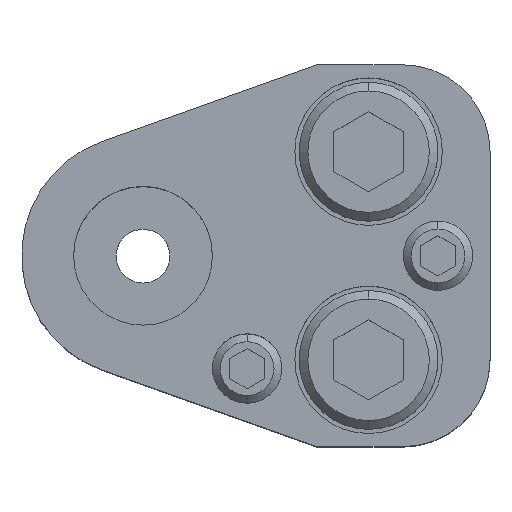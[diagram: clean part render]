
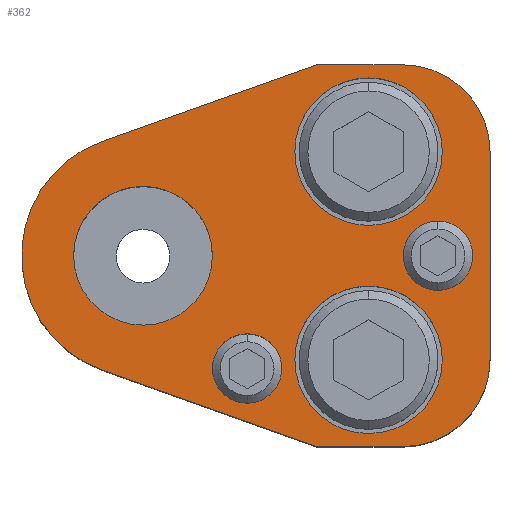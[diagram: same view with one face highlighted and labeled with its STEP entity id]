
A CAD part, top view. The second image highlights one B-rep face of the part: STEP entity #362.
In plain terms, the highlighted planar face has unit normal (0, 0, 1).
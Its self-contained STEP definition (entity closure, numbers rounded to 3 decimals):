
#134=PLANE('',#2717);
#203=FACE_BOUND('',#693,.T.);
#204=FACE_BOUND('',#694,.T.);
#205=FACE_BOUND('',#695,.T.);
#206=FACE_BOUND('',#696,.T.);
#207=FACE_BOUND('',#697,.T.);
#208=FACE_BOUND('',#698,.T.);
#362=ADVANCED_FACE('',(#203,#204,#205,#206,#207,#208),#134,.T.);
#693=EDGE_LOOP('',(#1255,#1256,#1257,#1258,#1259,#1260,#1261,#1262));
#694=EDGE_LOOP('',(#1263,#1264));
#695=EDGE_LOOP('',(#1265,#1266));
#696=EDGE_LOOP('',(#1267,#1268));
#697=EDGE_LOOP('',(#1269,#1270));
#698=EDGE_LOOP('',(#1271,#1272));
#845=CIRCLE('',#2656,14.);
#847=CIRCLE('',#2661,10.);
#849=CIRCLE('',#2665,10.);
#867=CIRCLE('',#2693,8.5);
#869=CIRCLE('',#2696,8.5);
#871=CIRCLE('',#2700,8.5);
#873=CIRCLE('',#2703,8.5);
#877=CIRCLE('',#2711,4.);
#878=CIRCLE('',#2712,4.);
#879=CIRCLE('',#2713,4.);
#880=CIRCLE('',#2714,4.);
#881=CIRCLE('',#2715,8.);
#882=CIRCLE('',#2716,8.);
#1255=ORIENTED_EDGE('',*,*,#1942,.T.);
#1256=ORIENTED_EDGE('',*,*,#1946,.T.);
#1257=ORIENTED_EDGE('',*,*,#1949,.T.);
#1258=ORIENTED_EDGE('',*,*,#1952,.T.);
#1259=ORIENTED_EDGE('',*,*,#1955,.T.);
#1260=ORIENTED_EDGE('',*,*,#1958,.T.);
#1261=ORIENTED_EDGE('',*,*,#1961,.T.);
#1262=ORIENTED_EDGE('',*,*,#1964,.T.);
#1263=ORIENTED_EDGE('',*,*,#2003,.F.);
#1264=ORIENTED_EDGE('',*,*,#2004,.F.);
#1265=ORIENTED_EDGE('',*,*,#2005,.F.);
#1266=ORIENTED_EDGE('',*,*,#2006,.F.);
#1267=ORIENTED_EDGE('',*,*,#1997,.F.);
#1268=ORIENTED_EDGE('',*,*,#1993,.F.);
#1269=ORIENTED_EDGE('',*,*,#1991,.F.);
#1270=ORIENTED_EDGE('',*,*,#1987,.F.);
#1271=ORIENTED_EDGE('',*,*,#2007,.T.);
#1272=ORIENTED_EDGE('',*,*,#2008,.T.);
#1686=VERTEX_POINT('',#3916);
#1687=VERTEX_POINT('',#3918);
#1690=VERTEX_POINT('',#3925);
#1692=VERTEX_POINT('',#3931);
#1694=VERTEX_POINT('',#3937);
#1696=VERTEX_POINT('',#3943);
#1698=VERTEX_POINT('',#3949);
#1700=VERTEX_POINT('',#3955);
#1717=VERTEX_POINT('',#4008);
#1718=VERTEX_POINT('',#4009);
#1721=VERTEX_POINT('',#4021);
#1722=VERTEX_POINT('',#4022);
#1727=VERTEX_POINT('',#4042);
#1728=VERTEX_POINT('',#4043);
#1729=VERTEX_POINT('',#4046);
#1730=VERTEX_POINT('',#4047);
#1731=VERTEX_POINT('',#4050);
#1732=VERTEX_POINT('',#4051);
#1942=EDGE_CURVE('',#1687,#1686,#845,.T.);
#1946=EDGE_CURVE('',#1686,#1690,#2226,.T.);
#1949=EDGE_CURVE('',#1690,#1692,#2229,.T.);
#1952=EDGE_CURVE('',#1692,#1694,#847,.T.);
#1955=EDGE_CURVE('',#1694,#1696,#2233,.T.);
#1958=EDGE_CURVE('',#1696,#1698,#849,.T.);
#1961=EDGE_CURVE('',#1698,#1700,#2237,.T.);
#1964=EDGE_CURVE('',#1700,#1687,#2240,.T.);
#1987=EDGE_CURVE('',#1717,#1718,#867,.T.);
#1991=EDGE_CURVE('',#1718,#1717,#869,.T.);
#1993=EDGE_CURVE('',#1721,#1722,#871,.T.);
#1997=EDGE_CURVE('',#1722,#1721,#873,.T.);
#2003=EDGE_CURVE('',#1727,#1728,#877,.T.);
#2004=EDGE_CURVE('',#1728,#1727,#878,.T.);
#2005=EDGE_CURVE('',#1729,#1730,#879,.T.);
#2006=EDGE_CURVE('',#1730,#1729,#880,.T.);
#2007=EDGE_CURVE('',#1731,#1732,#881,.T.);
#2008=EDGE_CURVE('',#1732,#1731,#882,.T.);
#2226=LINE('',#3926,#2416);
#2229=LINE('',#3932,#2419);
#2233=LINE('',#3944,#2423);
#2237=LINE('',#3956,#2427);
#2240=LINE('',#3960,#2430);
#2416=VECTOR('',#3113,1.);
#2419=VECTOR('',#3118,1.);
#2423=VECTOR('',#3130,1.);
#2427=VECTOR('',#3142,1.);
#2430=VECTOR('',#3147,1.);
#2656=AXIS2_PLACEMENT_3D('',#3917,#3105,#3106);
#2661=AXIS2_PLACEMENT_3D('',#3938,#3123,#3124);
#2665=AXIS2_PLACEMENT_3D('',#3950,#3135,#3136);
#2693=AXIS2_PLACEMENT_3D('',#4007,#3202,#3203);
#2696=AXIS2_PLACEMENT_3D('',#4016,#3210,#3211);
#2700=AXIS2_PLACEMENT_3D('',#4020,#3218,#3219);
#2703=AXIS2_PLACEMENT_3D('',#4029,#3226,#3227);
#2711=AXIS2_PLACEMENT_3D('',#4041,#3244,#3245);
#2712=AXIS2_PLACEMENT_3D('',#4044,#3246,#3247);
#2713=AXIS2_PLACEMENT_3D('',#4045,#3248,#3249);
#2714=AXIS2_PLACEMENT_3D('',#4048,#3250,#3251);
#2715=AXIS2_PLACEMENT_3D('',#4049,#3252,#3253);
#2716=AXIS2_PLACEMENT_3D('',#4052,#3254,#3255);
#2717=AXIS2_PLACEMENT_3D('',#4053,#3256,#3257);
#3105=DIRECTION('',(0.,0.,1.));
#3106=DIRECTION('',(-0.106,0.994,0.));
#3113=DIRECTION('',(0.942,-0.336,0.));
#3118=DIRECTION('',(1.,0.,0.));
#3123=DIRECTION('',(0.,0.,1.));
#3124=DIRECTION('',(-0.707,0.707,0.));
#3130=DIRECTION('',(0.,1.,0.));
#3135=DIRECTION('',(0.,0.,1.));
#3136=DIRECTION('',(-0.707,-0.707,0.));
#3142=DIRECTION('',(-1.,0.,0.));
#3147=DIRECTION('',(-0.942,-0.336,0.));
#3202=DIRECTION('',(0.,0.,1.));
#3203=DIRECTION('',(-1.,0.,0.));
#3210=DIRECTION('',(0.,0.,1.));
#3211=DIRECTION('',(1.,0.,0.));
#3218=DIRECTION('',(0.,0.,1.));
#3219=DIRECTION('',(-1.,0.,0.));
#3226=DIRECTION('',(0.,0.,1.));
#3227=DIRECTION('',(1.,0.,0.));
#3244=DIRECTION('',(0.,0.,1.));
#3245=DIRECTION('',(1.,0.,0.));
#3246=DIRECTION('',(0.,0.,1.));
#3247=DIRECTION('',(-1.,0.,0.));
#3248=DIRECTION('',(0.,0.,1.));
#3249=DIRECTION('',(1.,0.,0.));
#3250=DIRECTION('',(0.,0.,1.));
#3251=DIRECTION('',(-1.,0.,0.));
#3252=DIRECTION('',(0.,0.,-1.));
#3253=DIRECTION('',(-1.,0.,0.));
#3254=DIRECTION('',(0.,0.,-1.));
#3255=DIRECTION('',(1.,0.,0.));
#3256=DIRECTION('',(0.,0.,1.));
#3257=DIRECTION('',(0.942,0.336,0.));
#3916=CARTESIAN_POINT('',(-4.704,-13.186,35.));
#3917=CARTESIAN_POINT('',(0.,0.,35.));
#3918=CARTESIAN_POINT('',(-4.704,13.186,35.));
#3925=CARTESIAN_POINT('',(20.,-22.,35.));
#3926=CARTESIAN_POINT('',(20.,-22.,35.));
#3931=CARTESIAN_POINT('',(30.,-22.,35.));
#3932=CARTESIAN_POINT('',(30.,-22.,35.));
#3937=CARTESIAN_POINT('',(40.,-12.,35.));
#3938=CARTESIAN_POINT('',(30.,-12.,35.));
#3943=CARTESIAN_POINT('',(40.,12.,35.));
#3944=CARTESIAN_POINT('',(40.,12.,35.));
#3949=CARTESIAN_POINT('',(30.,22.,35.));
#3950=CARTESIAN_POINT('',(30.,12.,35.));
#3955=CARTESIAN_POINT('',(20.,22.,35.));
#3956=CARTESIAN_POINT('',(30.,22.,35.));
#3960=CARTESIAN_POINT('',(20.,22.,35.));
#4007=CARTESIAN_POINT('',(26.,12.,35.));
#4008=CARTESIAN_POINT('',(26.,3.5,35.));
#4009=CARTESIAN_POINT('',(26.,20.5,35.));
#4016=CARTESIAN_POINT('',(26.,12.,35.));
#4020=CARTESIAN_POINT('',(26.,-12.,35.));
#4021=CARTESIAN_POINT('',(26.,-20.5,35.));
#4022=CARTESIAN_POINT('',(26.,-3.5,35.));
#4029=CARTESIAN_POINT('',(26.,-12.,35.));
#4041=CARTESIAN_POINT('',(12.,-13.,35.));
#4042=CARTESIAN_POINT('',(12.,-9.,35.));
#4043=CARTESIAN_POINT('',(12.,-17.,35.));
#4044=CARTESIAN_POINT('',(12.,-13.,35.));
#4045=CARTESIAN_POINT('',(34.,0.,35.));
#4046=CARTESIAN_POINT('',(34.,4.,35.));
#4047=CARTESIAN_POINT('',(34.,-4.,35.));
#4048=CARTESIAN_POINT('',(34.,0.,35.));
#4049=CARTESIAN_POINT('',(0.,0.,35.));
#4050=CARTESIAN_POINT('',(0.,8.,35.));
#4051=CARTESIAN_POINT('',(0.,-8.,35.));
#4052=CARTESIAN_POINT('',(0.,0.,35.));
#4053=CARTESIAN_POINT('',(-4.704,13.186,35.));
